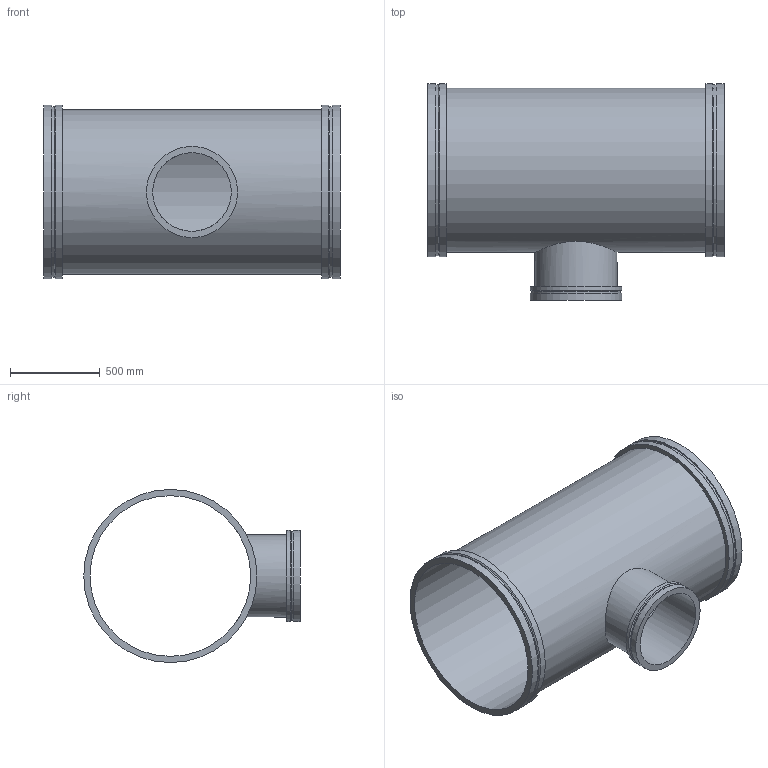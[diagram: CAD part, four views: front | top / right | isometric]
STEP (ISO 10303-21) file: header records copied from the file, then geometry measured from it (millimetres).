
FILE_DESCRIPTION(/* description */ ('VIC REDUCING TEE No W025 VR','CAx-IF Rec.Pracs.---Representation and Presentation of Product Manufacturing Information (PMI)---4.0---2014-10-13'),/* implementation_level */ '2;1');
FILE_NAME(/* name */ 'C:\Users\kkamble\AppData\Roaming\Autodesk\ApplicationPlugins\Back Up\Victaulic_Vic-Ring_Tee Reducing_No W25 VR (AGR)\Victaulic_Vic-Ring_Tee Reducing_No W25 VR (AGR)_36.0x18.0 (900x450).stp',/* time_stamp */ '2020-09-10T11:54:57+05:00',/* author */ ('mchristi'),/* organization */ ('Victaulic'),/* preprocessor_version */ 'ST-DEVELOPER v17.2',/* originating_system */ 'Autodesk Inventor 2019',/* authorisation */ '');
FILE_SCHEMA (('AP242_MANAGED_MODEL_BASED_3D_ENGINEERING_MIM_LF { 1 0 10303 442 1 1 4 }'));
Length unit declared in the file: inch
Products named in the file (1): W25 VR-36.0x18.0
Bounding box: 1651 x 1206.5 x 965.2 mm (x, y, z)
Volume: 64499487.9 mm3; surface area: 10472004.8 mm2
Topology: 1 solids, 1 shells, 25 faces, 68 edges, 52 vertices
Faces by surface type: cylinder 13, plane 9, cone 3
Full cylindrical faces by diameter (mm): 438.15 x1, 457.2 x1, 495.3 x1, 508 x2, 895.35 x1, 914.4 x1, 950.722 x2, 965.2 x4
Entity records: 1203 total; most frequent: CARTESIAN_POINT 359, DIRECTION 190, ORIENTED_EDGE 136, AXIS2_PLACEMENT_3D 87, EDGE_CURVE 68, VERTEX_POINT 52, CIRCLE 48, EDGE_LOOP 36
